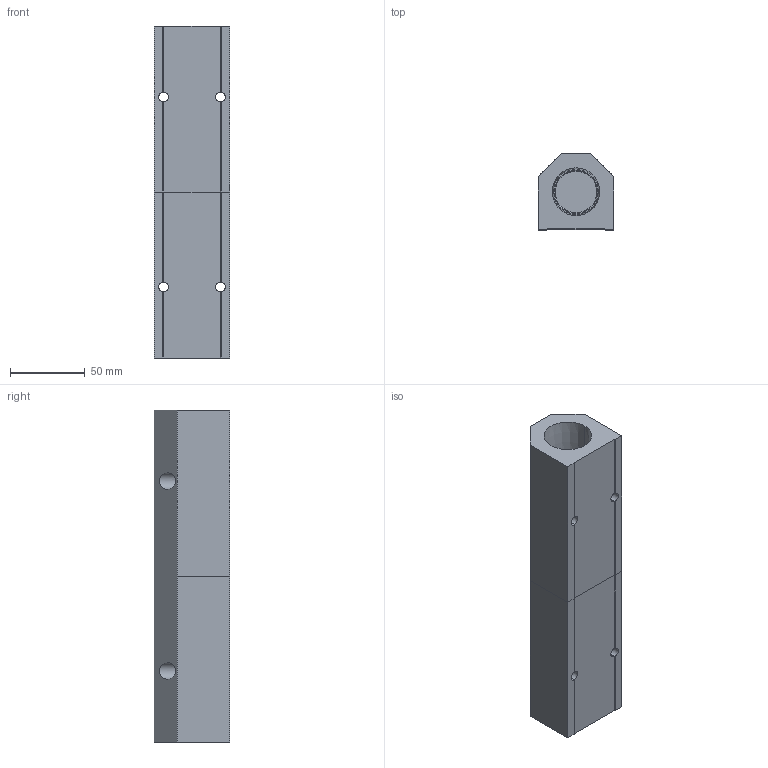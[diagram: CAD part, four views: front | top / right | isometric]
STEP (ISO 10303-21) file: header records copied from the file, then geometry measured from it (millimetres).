
FILE_DESCRIPTION (( 'STEP AP214' ), '1' );
FILE_NAME ('ALM6C-N4N16-222RB.STEP', '2023-11-02T06:13:42', ( '' ), ( '' ), 'SwSTEP 2.0', 'SolidWorks 2020', '' );
FILE_SCHEMA (( 'AUTOMOTIVE_DESIGN' ));
Length unit declared in the file: millimetre
Products named in the file (1): ALM6C-N4N16-222RB
Bounding box: 50.8 x 50.8 x 222 mm (x, y, z)
Volume: 357297.8 mm3; surface area: 74925.6 mm2
Topology: 2 solids, 2 shells, 325 faces, 845 edges, 558 vertices
Faces by surface type: plane 219, bspline 62, cylinder 24, cone 20
Entity records: 17338 total; most frequent: CARTESIAN_POINT 6771, ORIENTED_EDGE 1690, DIRECTION 1281, EDGE_CURVE 845, VECTOR 633, LINE 633, VERTEX_POINT 558, EDGE_LOOP 379
